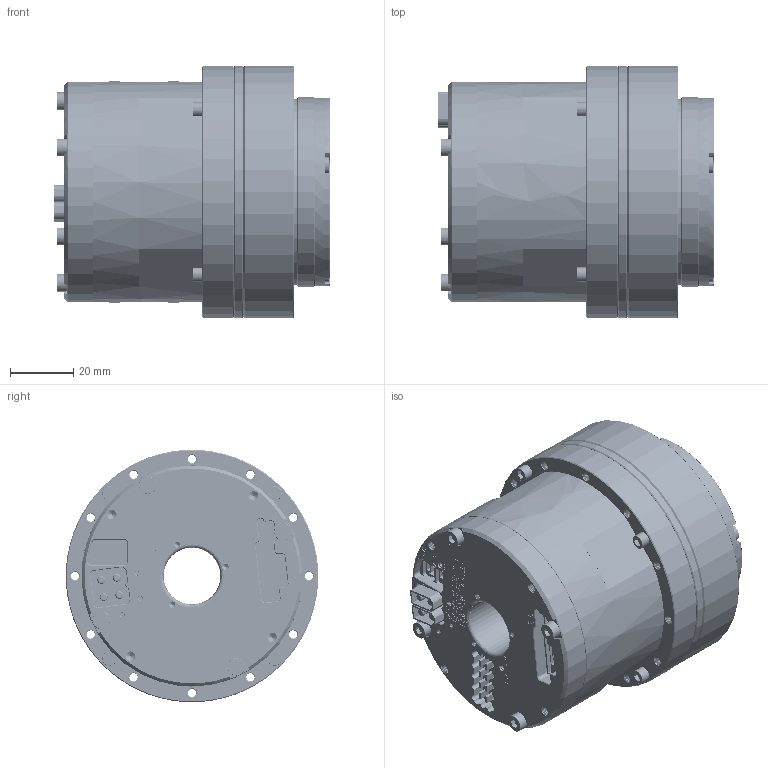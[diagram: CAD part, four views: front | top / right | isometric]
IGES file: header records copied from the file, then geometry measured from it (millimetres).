
Start section: SolidWorks IGES file using analytic representation for surfaces
Global section: file name: 45HG:\李鸿彬\解密模型20240411\官网更新整理\I型\eRob80 I型\eRob80 I型（V5）\eRob80H××I-XX-18CX_V5_MC2C.BX.XX\eRob80H××I-XX-18CX_V5_MC2C.BX.XX.igs; native system: SolidWorks 2021; preprocessor: SolidWorks 2021; author: ZERO; date: 240411.104522; units: millimetre
Bounding box: 87.6 x 80 x 80 mm (x, y, z)
Surface area: 46220.8 mm2 (no closed solid volume)
Topology: 0 solids, 0 shells, 4420 faces, 60902 edges, 60852 vertices
Faces by surface type: bspline 2428, revolution 1992
